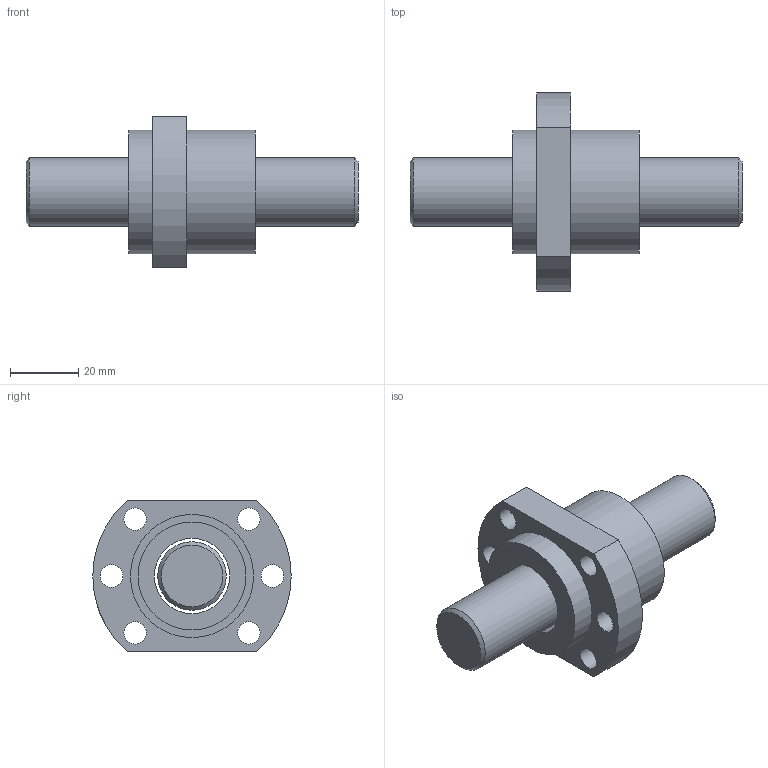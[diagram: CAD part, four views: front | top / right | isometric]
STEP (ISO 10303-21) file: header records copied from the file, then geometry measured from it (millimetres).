
FILE_DESCRIPTION (( 'STEP AP203' ), '1' );
FILE_NAME ('SFNH2005-3.8.STEP', '2023-07-28T01:00:50', ( '' ), ( '' ), 'SwSTEP 2.0', 'SolidWorks 2022', '' );
FILE_SCHEMA (( 'CONFIG_CONTROL_DESIGN' ));
Length unit declared in the file: millimetre
Products named in the file (1): SFNH2005-3.8
Bounding box: 97 x 58 x 44 mm (x, y, z)
Volume: 64393.6 mm3; surface area: 23765.1 mm2
Topology: 4 solids, 4 shells, 62 faces, 124 edges, 82 vertices
Faces by surface type: cylinder 33, plane 23, cone 3, bspline 3
Full cylindrical faces by diameter (mm): 1.5 x1, 5 x5, 6.6 x6, 20 x1, 22 x3, 28 x4, 31.5 x4, 33 x4, 36 x2
Entity records: 2490 total; most frequent: CARTESIAN_POINT 1326, DIRECTION 234, ORIENTED_EDGE 154, EDGE_LOOP 118, AXIS2_PLACEMENT_3D 111, FACE_OUTER_BOUND 83, EDGE_CURVE 77, VERTEX_POINT 69
